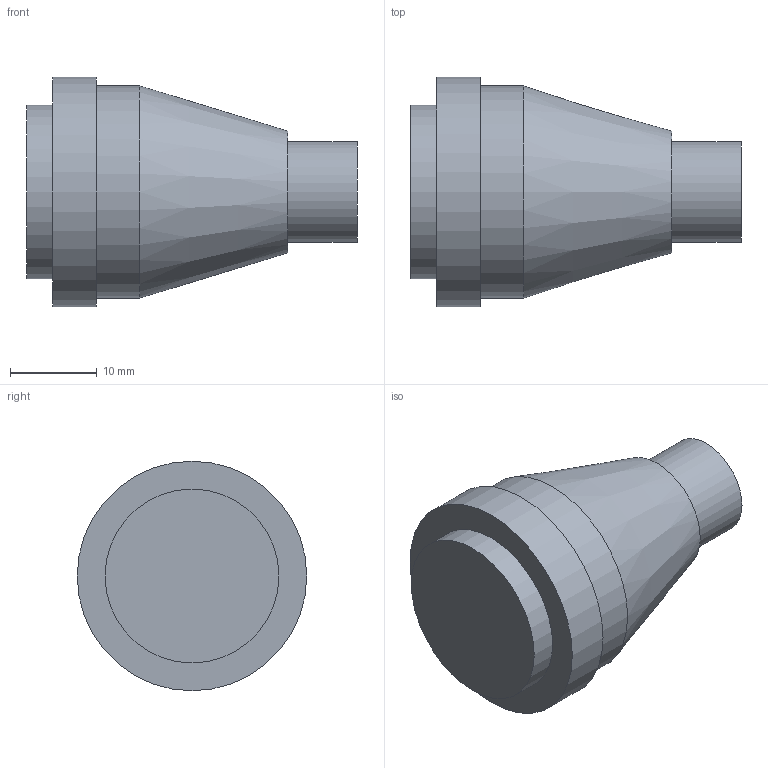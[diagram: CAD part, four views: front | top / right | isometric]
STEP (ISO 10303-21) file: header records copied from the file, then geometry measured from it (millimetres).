
FILE_DESCRIPTION (( 'STEP AP214' ), '1' );
FILE_NAME ('瑤脣鼠芛.STEP', '2026-05-21T03:43:05', ( 'Windows User' ), ( 'P R C' ), 'SwSTEP 2.0', 'SolidWorks 2021', '' );
FILE_SCHEMA (( 'AUTOMOTIVE_DESIGN' ));
Length unit declared in the file: millimetre
Products named in the file (1): 瑤脣鼠芛
Bounding box: 38 x 26.4 x 26.4 mm (x, y, z)
Volume: 11905.2 mm3; surface area: 3131.4 mm2
Topology: 1 solids, 1 shells, 10 faces, 14 edges, 9 vertices
Faces by surface type: plane 5, cylinder 4, cone 1
Full cylindrical faces by diameter (mm): 11.6 x1, 20 x1, 24.4 x1, 26.4 x1
Entity records: 228 total; most frequent: DIRECTION 40, CARTESIAN_POINT 29, AXIS2_PLACEMENT_3D 20, EDGE_LOOP 18, ORIENTED_EDGE 18, FACE_OUTER_BOUND 14, ADVANCED_FACE 10, VERTEX_POINT 9
